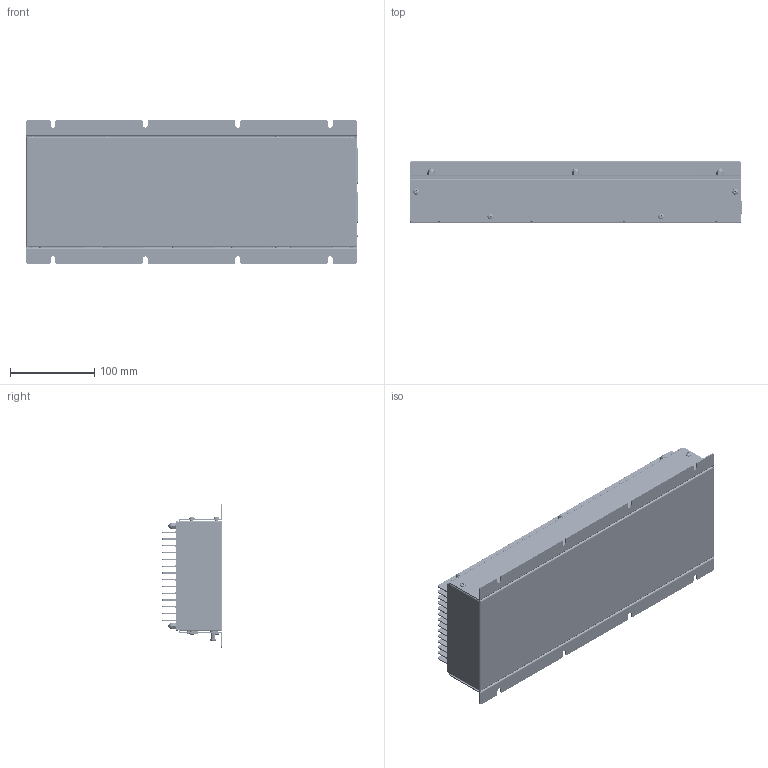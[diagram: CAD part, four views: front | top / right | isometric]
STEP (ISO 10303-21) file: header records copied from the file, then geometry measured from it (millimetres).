
FILE_DESCRIPTION (( 'STEP AP214' ), '1' );
FILE_NAME ('180 cell Final Assembly.STEP', '2019-06-14T19:01:11', ( '' ), ( '' ), 'SwSTEP 2.0', 'SolidWorks 2018', '' );
FILE_SCHEMA (( 'AUTOMOTIVE_DESIGN' ));
Length unit declared in the file: inch
Products named in the file (105): K3D-MX34028NF2-V2_JAE_Proprietary; thru-hole standoff_pmi; Kingbright WP937EGW; c-1318384-1-e-3d; 72 Cell Board; thru-hole standoff_pmi_PEM SOA-632-8 ---N; pan cross head_ai; 180 cell box cover; 180 cell Enclosure Top; aluminum nut_pmi; external tooth lock washer_ai; flush stud_pmi_PEM FHA-632-6 ---N; 180 cell heatsink 14fin; external tooth lock washer_ai_ASME B18.21.1 - 0.141; acorn low crown nut_ai; flush stud_pmi; thru-hole standoff_pmi_PEM SO-632-8 ZI--N; aluminum nut_pmi_PEM CLA-632-2 ---N; thru-hole standoff_pmi_PEM SOA-632-30 ---N; 93505A465_93505A465; 108 cell bottom board 4-09-16; Bottom Board with Connectors; 93505A465; self-clinching nut_pmi; Top Board 08-04-16; 180 cell Box Bottom; 72 Cell Board and connectors; self-clinching nut_pmi_PEM S-632-2 ZI--N; 180 cell Enclosure Bottom; 180 cell Final Assembly; c-1376357-01-3-a1-3d; acorn low crown nut_ai_ALCNUT 0.1380-32-N; pan cross head_ai_CR-PHMS 0.138-32x0.188x0.188-N; top board with connectos 8-4-16
Assembly tree (84 placements, depth 3):
  K3D-MX34028NF2-V2_JAE_Proprietary
  thru-hole standoff_pmi
  Kingbright WP937EGW
  c-1318384-1-e-3d
  72 Cell Board
Bounding box: 395.17 x 72.59 x 170.59 mm (x, y, z)
Volume: 743318.3 mm3; surface area: 852497.3 mm2
Topology: 78 solids, 78 shells, 11299 faces, 30051 edges, 19403 vertices
Faces by surface type: plane 7531, cylinder 2960, cone 390, bspline 284, torus 72, sphere 62
Entity records: 146286 total; most frequent: CARTESIAN_POINT 32862, ORIENTED_EDGE 23456, DIRECTION 22069, EDGE_CURVE 11728, LINE 7969, VECTOR 7969, VERTEX_POINT 7675, AXIS2_PLACEMENT_3D 7050
